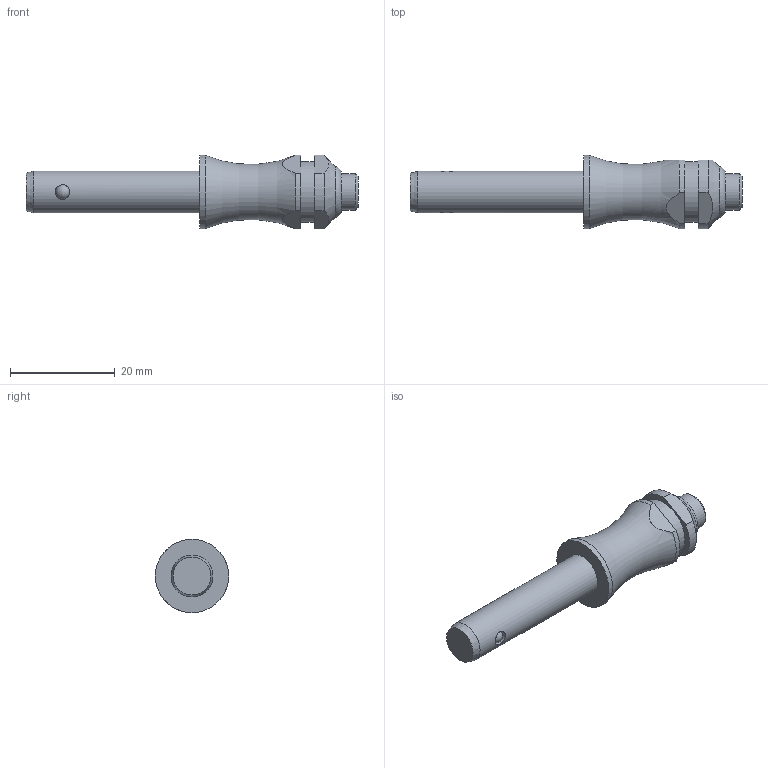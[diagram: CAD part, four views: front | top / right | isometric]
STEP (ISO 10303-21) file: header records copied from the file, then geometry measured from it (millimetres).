
FILE_DESCRIPTION( ( 'STEP AP203' ), '1' );
FILE_NAME( 'C:/Temp/Ganter_Step_05_03_2020/data/3_1/gn113_3/Stainless Steel-Ball lock pin GN 113.3-8-25 (activated).stp', '2020-03-12T08:18:23', ( 'License CC BY-ND 4.0' ), ( 'CADENAS' ), ' ', 'PARTsolutions', ' ' );
FILE_SCHEMA( ( 'CONFIG_CONTROL_DESIGN' ) );
Length unit declared in the file: millimetre
Products named in the file (1): _Stainless Steel-Ball lock pin GN 113.3-8-25 (activated)
Bounding box: 63.35 x 14 x 14 mm (x, y, z)
Volume: 4757.9 mm3; surface area: 2252 mm2
Topology: 1 solids, 1 shells, 30 faces, 72 edges, 45 vertices
Faces by surface type: cylinder 12, plane 11, cone 3, torus 2, sphere 2
Full cylindrical faces by diameter (mm): 2.78 x2, 7 x1, 8 x1, 11.6 x1, 14 x1
Entity records: 968 total; most frequent: CARTESIAN_POINT 321, DIRECTION 130, ORIENTED_EDGE 102, AXIS2_PLACEMENT_3D 56, EDGE_CURVE 51, EDGE_LOOP 46, VERTEX_POINT 39, FACE_OUTER_BOUND 38
